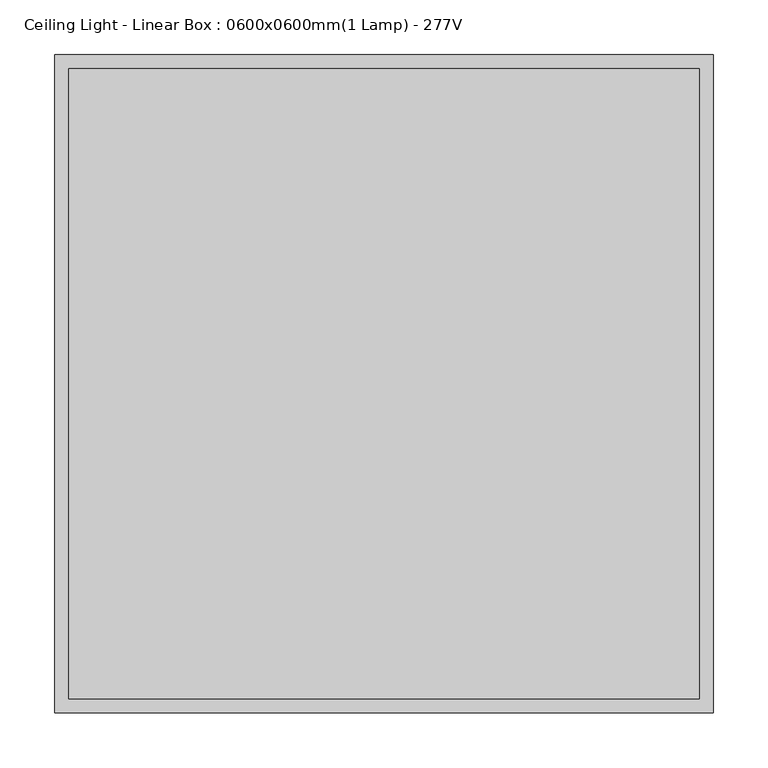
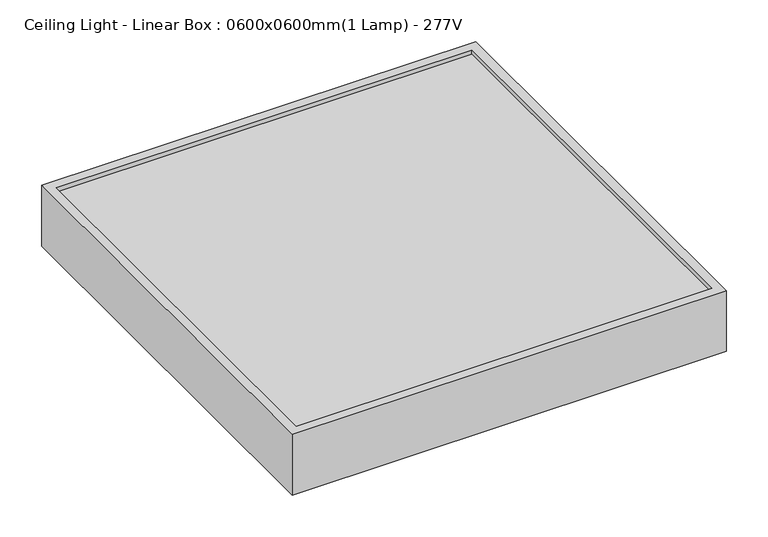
"""IFC4 building model written with IfcOpenShell, lengths in millimetres: light fixture geometry, Ceiling Light - Linear Box : 0600x0600mm(1 Lamp) - 277V."""

from ifc_helpers import new_model, si_unit, frame, origin, origin_with_axes, place, context, project, spatial, polyline, outline, extrude, source, transform, mapped, element, save


def ceiling_light_linear_box_0600x0600mm_1_lamp_277v_bcd122ad(model_context):
    return source(origin(), model_context, "Body", "SweptSolid", [
        extrude(outline(polyline([(287.3, -12.7), (287.3, -587.3), (-287.3, -587.3), (-287.3, -12.7), (287.3, -12.7)])), frame((0.0, 0.0, 76.2), z_axis=(0.0, 0.0, 1.0), x_axis=(1.0, 0.0, 0.0)), (0.0, 0.0, 1.0), 6.35),
        extrude(outline(polyline([(300.0, 0.0), (300.0, -600.0), (-300.0, -600.0), (-300.0, 0.0), (300.0, 0.0)]), holes=[polyline([(287.3, -12.7), (-287.3, -12.7), (-287.3, -587.3), (287.3, -587.3), (287.3, -12.7)])]), origin_with_axes(), (0.0, 0.0, 1.0), 88.9),
    ])


if __name__ == "__main__":
    model = new_model("IFC4")
    model_context = context("Model", 3, world=origin())
    ifc_project = project(units=[si_unit("LENGTHUNIT", "METRE", prefix="MILLI")], contexts=[model_context])
    site = spatial("IfcSite", under=ifc_project)
    building = spatial("IfcBuilding", under=site)
    placement = place(None, origin())
    ceiling_light_linear_box_0600x0600mm_1_lamp_277v_shape = ceiling_light_linear_box_0600x0600mm_1_lamp_277v_bcd122ad(model_context)
    element("IfcLightFixture", 1, ObjectType="Ceiling Light - Linear Box : 0600x0600mm(1 Lamp) - 277V", at=placement, inside=building, context=model_context, shape_type="MappedRepresentation", body=[
        mapped(ceiling_light_linear_box_0600x0600mm_1_lamp_277v_shape, transform((0.0, 0.0, 0.0), x_axis=(1.0, 0.0, 0.0), y_axis=(0.0, 1.0, 0.0), z_axis=(0.0, 0.0, 1.0))),
    ])
    save(model, "model.ifc")
